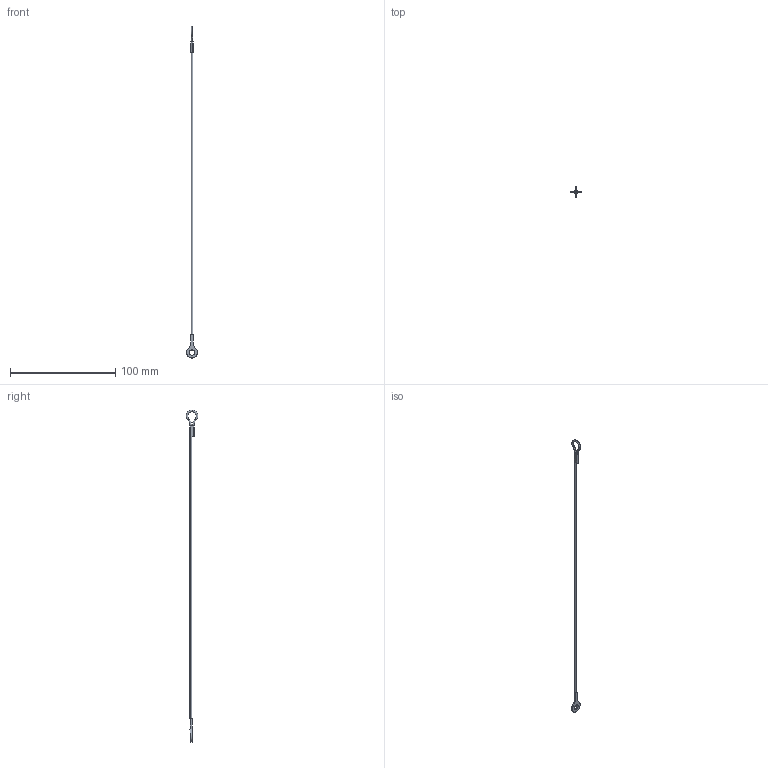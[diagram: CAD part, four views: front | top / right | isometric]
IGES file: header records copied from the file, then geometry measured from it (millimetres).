
Start section: SolidWorks IGES file using analytic representation for surfaces
Global section: file name: C:\Users\ianosborn\Desktop\LA1075_v2\LA1075_v2_20260320_IGES\LA1075.I06-304N1.igs; native system: SolidWorks 2019; preprocessor: SolidWorks 2019; author: IanOsborn; date: 260323.164624; units: millimetre
Bounding box: 10.41 x 11.16 x 315.6 mm (x, y, z)
Surface area: 1965.5 mm2 (no closed solid volume)
Topology: 0 solids, 0 shells, 32 faces, 404 edges, 404 vertices
Faces by surface type: bspline 22, revolution 10
